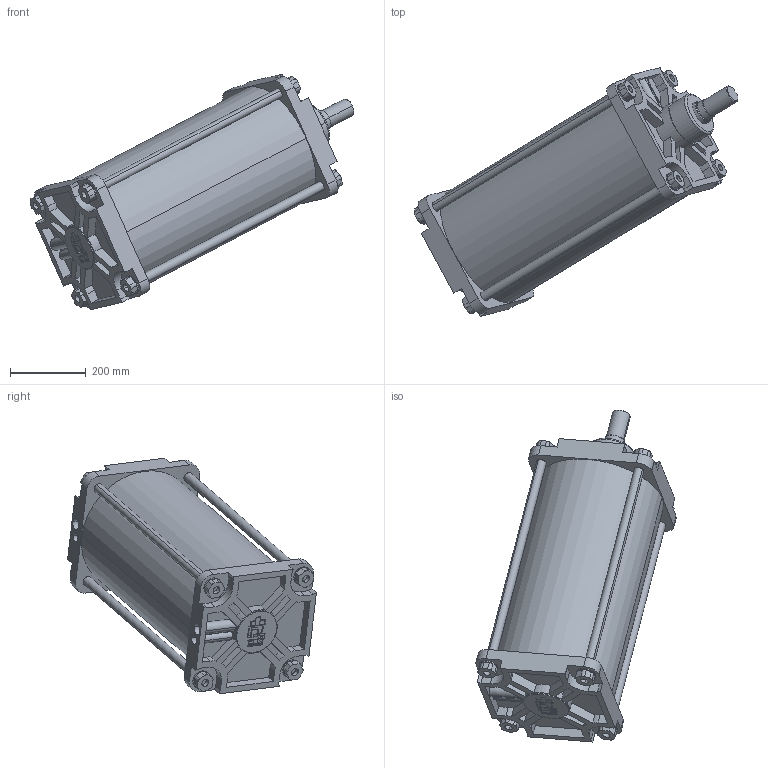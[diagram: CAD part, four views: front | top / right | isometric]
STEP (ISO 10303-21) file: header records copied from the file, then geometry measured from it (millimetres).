
FILE_DESCRIPTION(('CATIA V5 STEP Exchange'),'2;1');
FILE_NAME('D:\stp file for catalog\PNC\320\PNC 320-63-500.stp','2015-10-27T14:03:15+00:00',('none'),('none'),'Version 5-6 Release 2012','CATIA V5 STEP AP203','none');
FILE_SCHEMA(('CONFIG_CONTROL_DESIGN'));
Length unit declared in the file: millimetre
Products named in the file (1): PNC 320-63-500-00
Assembly tree (2 placements, depth 2):
  PNC 320-63-500-00
    #58
    #14831
Bounding box: 852.72 x 655.59 x 620.18 mm (x, y, z)
Volume: 21173559.8 mm3; surface area: 2497050.1 mm2
Topology: 2 solids, 4 shells, 522 faces, 1393 edges, 921 vertices
Faces by surface type: plane 305, cylinder 169, cone 42, torus 6
Entity records: 15447 total; most frequent: CARTESIAN_POINT 3485, ORIENTED_EDGE 2786, DIRECTION 1853, EDGE_CURVE 1393, VERTEX_POINT 921, VECTOR 878, LINE 878, AXIS2_PLACEMENT_3D 682
